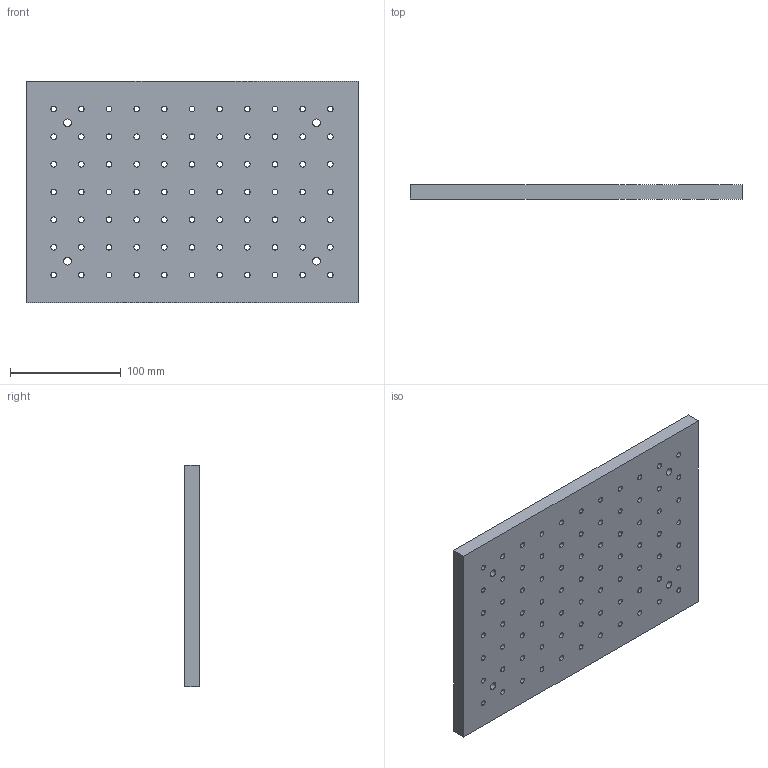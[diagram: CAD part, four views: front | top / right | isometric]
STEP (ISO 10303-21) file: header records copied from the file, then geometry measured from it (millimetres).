
FILE_DESCRIPTION (( 'STEP AP203' ), '1' );
FILE_NAME ('OTSB2030-13(AP203).STEP', '2022-02-28T09:01:03', ( '' ), ( '' ), 'SwSTEP 2.0', 'SolidWorks 2021', '' );
FILE_SCHEMA (( 'CONFIG_CONTROL_DESIGN' ));
Length unit declared in the file: millimetre
Products named in the file (1): OTSB2030-13(AP203)
Bounding box: 300 x 13.05 x 200 mm (x, y, z)
Volume: 756776.4 mm3; surface area: 147522.5 mm2
Topology: 11 solids, 11 shells, 340 faces, 942 edges, 628 vertices
Faces by surface type: cylinder 170, plane 170
Entity records: 11347 total; most frequent: DIRECTION 1964, CARTESIAN_POINT 1911, ORIENTED_EDGE 1884, EDGE_CURVE 942, AXIS2_PLACEMENT_3D 681, VERTEX_POINT 628, VECTOR 602, LINE 602
